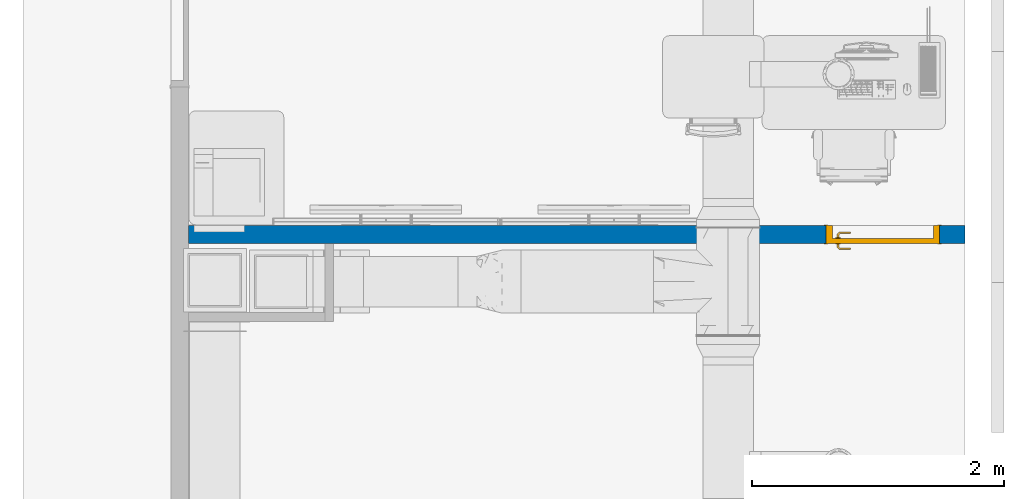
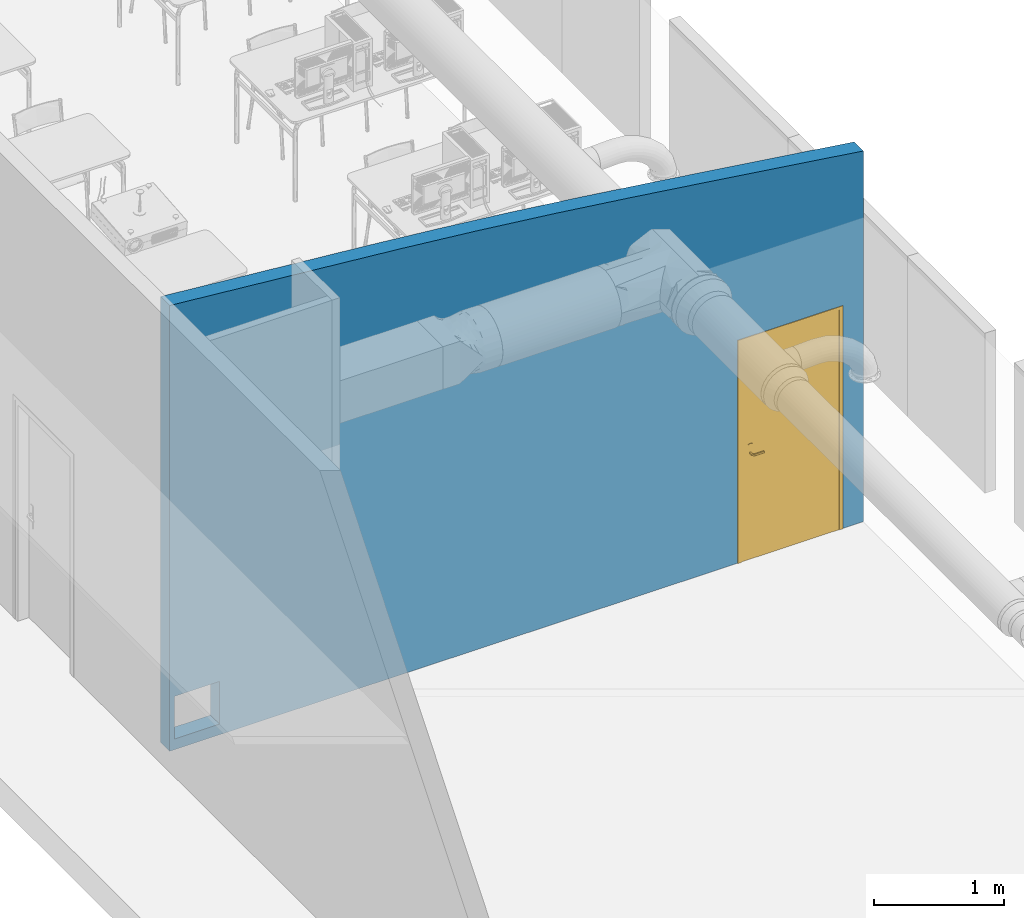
# One storey, part 3 of 31: 1 door, 1 wall, 1 opening.
"""IFC2X3 building model written with IfcOpenShell, lengths in millimetres."""

from ifc_helpers import new_model, entity, si_unit, converted_unit, derived_unit, direction, frame, frame_2d, origin, place, context, subcontext, project, spatial, rectangle, extrude, faceted_brep, source, transform, mapped, material, material_list, layer, layer_set, type_object, type_shapes, element, fill, save


model = new_model("IFC2X3")

# Units and contexts
model_context = context("Model", 3, precision=0.01, world=origin(), true_north=direction((6.123031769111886e-17, 1.0)))
body_context = subcontext(model_context, "Body", "Model", "MODEL_VIEW")
ifc_project = project(units=[si_unit("LENGTHUNIT", "METRE", prefix="MILLI"), si_unit("AREAUNIT", "SQUARE_METRE"), si_unit("VOLUMEUNIT", "CUBIC_METRE"), converted_unit("PLANEANGLEUNIT", "DEGREE", entity("IfcRatioMeasure", 0.017453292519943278), si_unit("PLANEANGLEUNIT", "RADIAN"), dimensions=[0, 0, 0, 0, 0, 0, 0]), si_unit("MASSUNIT", "GRAM", prefix="KILO"), derived_unit("MASSDENSITYUNIT", [(si_unit("MASSUNIT", "GRAM", prefix="KILO"), 1), (si_unit("LENGTHUNIT", "METRE"), -3)]), derived_unit("MOMENTOFINERTIAUNIT", [(si_unit("LENGTHUNIT", "METRE"), 4)]), si_unit("TIMEUNIT", "SECOND"), si_unit("FREQUENCYUNIT", "HERTZ"), si_unit("THERMODYNAMICTEMPERATUREUNIT", "DEGREE_CELSIUS"), derived_unit("THERMALTRANSMITTANCEUNIT", [(si_unit("MASSUNIT", "GRAM", prefix="KILO"), 1), (si_unit("THERMODYNAMICTEMPERATUREUNIT", "KELVIN"), -1), (si_unit("TIMEUNIT", "SECOND"), -3)]), derived_unit("VOLUMETRICFLOWRATEUNIT", [(si_unit("LENGTHUNIT", "METRE"), 3), (si_unit("TIMEUNIT", "SECOND"), -1)]), derived_unit("MASSFLOWRATEUNIT", [(si_unit("MASSUNIT", "GRAM", prefix="KILO"), 1), (si_unit("TIMEUNIT", "SECOND"), -1)]), derived_unit("ROTATIONALFREQUENCYUNIT", [(si_unit("TIMEUNIT", "SECOND"), -1)]), si_unit("ELECTRICCURRENTUNIT", "AMPERE"), si_unit("ELECTRICVOLTAGEUNIT", "VOLT"), si_unit("POWERUNIT", "WATT"), si_unit("FORCEUNIT", "NEWTON", prefix="KILO"), si_unit("ILLUMINANCEUNIT", "LUX"), si_unit("LUMINOUSFLUXUNIT", "LUMEN"), si_unit("LUMINOUSINTENSITYUNIT", "CANDELA"), derived_unit("USERDEFINED", [(si_unit("MASSUNIT", "GRAM", prefix="KILO"), -1), (si_unit("LENGTHUNIT", "METRE"), -2), (si_unit("TIMEUNIT", "SECOND"), 3), (si_unit("LUMINOUSFLUXUNIT", "LUMEN"), 1)]), derived_unit("SOUNDPOWERUNIT", [(si_unit("MASSUNIT", "GRAM", prefix="KILO"), 1), (si_unit("LENGTHUNIT", "METRE"), 2), (si_unit("TIMEUNIT", "SECOND"), -3)]), derived_unit("SOUNDPRESSUREUNIT", [(si_unit("MASSUNIT", "GRAM", prefix="KILO"), 1), (si_unit("LENGTHUNIT", "METRE"), -1), (si_unit("TIMEUNIT", "SECOND"), -2)]), derived_unit("LINEARVELOCITYUNIT", [(si_unit("LENGTHUNIT", "METRE"), 1), (si_unit("TIMEUNIT", "SECOND"), -1)]), si_unit("PRESSUREUNIT", "PASCAL"), derived_unit("USERDEFINED", [(si_unit("LENGTHUNIT", "METRE"), -2), (si_unit("MASSUNIT", "GRAM", prefix="KILO"), 1), (si_unit("TIMEUNIT", "SECOND"), -2)]), derived_unit("LINEARFORCEUNIT", [(si_unit("MASSUNIT", "GRAM", prefix="KILO"), 1), (si_unit("LENGTHUNIT", "METRE"), 1), (si_unit("TIMEUNIT", "SECOND"), -2), (si_unit("LENGTHUNIT", "METRE"), -1)]), derived_unit("PLANARFORCEUNIT", [(si_unit("MASSUNIT", "GRAM", prefix="KILO"), 1), (si_unit("LENGTHUNIT", "METRE"), 1), (si_unit("TIMEUNIT", "SECOND"), -2), (si_unit("LENGTHUNIT", "METRE"), -2)])], contexts=[model_context])

# Site, building, storey
site_placement = place(None, origin())
site = spatial("IfcSite", under=ifc_project, at=site_placement, Name="Default", CompositionType="ELEMENT")
building_placement = place(site_placement, origin())
building = spatial("IfcBuilding", under=site, at=building_placement, CompositionType="ELEMENT")
storey_placement = place(building_placement, frame((0.0, 0.0, 3880.0)))
storey = spatial("IfcBuildingStorey", under=building, at=storey_placement, Name="Niveau 1", CompositionType="ELEMENT", Elevation=3880.0)

# Wall, opening, door
ifc_material_1 = material(Name="Peinture")
ifc_layer = layer(ifc_material_1, 140.0)
ifc_layer_set = layer_set([ifc_layer], Name="Mur de base:Générique - 140 mm")
wall_type = type_object("IfcWallType", Name="Mur de base:Générique - 140 mm", PredefinedType="STANDARD", material=ifc_layer_set)
wall_placement = place(storey_placement, frame((-6470.0, -14200.0, 0.0)))
wall = element("IfcWall", 1, at=wall_placement, inside=storey, type_object=wall_type, Name="Mur de base:Générique - 140 mm", ObjectType="Mur de base:Générique - 140 mm", context=body_context, shape_type="Brep", body=[
    faceted_brep([(6150.0, -70.0, 0.0), (5950.0, -70.0, 0.0), (5950.0, 70.0, 0.0), (6150.0, 70.0, 0.0), (1080.0, -70.0, 0.0), (0.0, -70.0, 0.0), (0.0, 70.0, 0.0), (5050.0, 70.0, 0.0), (5050.0, -70.0, 0.0), (1150.0, -70.0, 0.0), (42.789588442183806, -70.0, 100.0), (42.789588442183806, -70.0, 500.0), (442.7895884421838, -70.0, 100.0), (0.0, -70.0, 4178.169691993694), (442.7895884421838, -70.0, 500.0), (2055.475284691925, -70.0, 3992.731269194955), (2141.0210894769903, -70.0, 3983.991725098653), (2226.566894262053, -70.0, 3975.2521810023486), (2312.1126990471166, -70.0, 3966.5126369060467), (2397.6585038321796, -70.0, 3957.7730928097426), (2483.2043086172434, -70.0, 3949.0335487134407), (2568.750113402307, -70.0, 3940.2940046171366), (2654.2959181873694, -70.0, 3931.5544605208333), (2739.841722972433, -70.0, 3922.81491642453), (5050.0, -70.0, 2075.0), (2825.2541357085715, -70.0, 3912.9608908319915), (2910.6665484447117, -70.0, 3903.1068652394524), (2996.078961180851, -70.0, 3893.2528396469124), (3081.4913739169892, -70.0, 3883.398814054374), (3166.903786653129, -70.0, 3873.5447884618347), (3252.316199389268, -70.0, 3863.6907628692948), (3337.7286121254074, -70.0, 3853.836737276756), (3423.1410248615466, -70.0, 3843.9827116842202), (3593.723436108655, -70.0, 3822.0273257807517), (3764.305847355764, -70.0, 3800.0719398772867), (3934.888258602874, -70.0, 3778.1165539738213), (4105.470669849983, -70.0, 3756.1611680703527), (4275.906171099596, -70.0, 3733.00040072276), (4446.341672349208, -70.0, 3709.8396333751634), (4616.77717359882, -70.0, 3686.678866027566), (4787.212674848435, -70.0, 3663.5180986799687), (5127.94077067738, -70.0, 3616.289063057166), (5468.668866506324, -70.0, 3569.0600274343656), (5950.0, -70.0, 2075.0), (5809.334433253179, -70.0, 3521.414000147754), (6150.0, -70.0, 3473.767972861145), (1969.840553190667, -70.0, 4000.5179869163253), (1884.2058216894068, -70.0, 4008.304704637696), (1798.5710901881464, -70.0, 4016.0914223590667), (1712.936358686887, -70.0, 4023.878140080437), (1627.301627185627, -70.0, 4031.664857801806), (1541.666895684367, -70.0, 4039.451575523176), (1456.0321641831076, -70.0, 4047.238293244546), (1370.3974326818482, -70.0, 4055.025010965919), (1284.7465100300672, -70.0, 4062.6916693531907), (1199.0955873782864, -70.0, 4070.358327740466), (1113.4446647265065, -70.0, 4078.02498612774), (1027.7937420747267, -70.0, 4085.691644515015), (942.1428194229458, -70.0, 4093.3583029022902), (856.4918967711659, -70.0, 4101.024961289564), (770.8409741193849, -70.0, 4108.691619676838), (685.190051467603, -70.0, 4116.358278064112), (599.5412950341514, -70.0, 4124.084704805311), (513.8925386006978, -70.0, 4131.811131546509), (342.5950257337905, -70.0, 4147.263985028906), (171.29751286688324, -70.0, 4162.716838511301), (5950.0, 70.0, 2075.0), (6150.0, 70.0, 3473.767972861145), (5833.222258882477, 70.0, 3518.088082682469), (5536.759750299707, 70.0, 3559.5659052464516), (5050.0, 70.0, 2075.0), (5230.092723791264, 70.0, 3602.152106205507), (4923.4256972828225, 70.0, 3644.7383071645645), (4616.677546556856, 70.0, 3686.712179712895), (4309.929395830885, 70.0, 3728.686052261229), (4156.482560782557, 70.0, 3748.9622434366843), (4003.035725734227, 70.0, 3769.238434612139), (3849.5888906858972, 70.0, 3789.514625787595), (3696.142055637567, 70.0, 3809.790816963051), (3542.527732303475, 70.0, 3828.468742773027), (3388.913408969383, 70.0, 3847.146668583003), (3235.29908563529, 70.0, 3865.8245943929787), (3081.684762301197, 70.0, 3884.5025202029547), (442.7895884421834, 70.0, 500.0), (442.7895884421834, 70.0, 100.0), (42.789588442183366, 70.0, 100.0), (42.789588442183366, 70.0, 500.0), (0.0, 70.0, 4178.169691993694), (121.83043230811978, 70.0, 4167.206195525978), (308.37303393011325, 70.0, 4150.419263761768), (462.5595508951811, 70.0, 4136.544049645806), (616.7460678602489, 70.0, 4122.668835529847), (693.824652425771, 70.0, 4115.726689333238), (770.903236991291, 70.0, 4108.7845431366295), (925.0604061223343, 70.0, 4094.900250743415), (1079.2175752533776, 70.0, 4081.0159583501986), (1233.3747443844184, 70.0, 4067.131665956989), (1310.4541360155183, 70.0, 4060.240882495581), (1387.533527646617, 70.0, 4053.3500990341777), (1464.6129192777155, 70.0, 4046.4593155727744), (1541.6923109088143, 70.0, 4039.5685321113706), (1618.771702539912, 70.0, 4032.6777486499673), (1695.851094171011, 70.0, 4025.786965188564), (1772.9304858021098, 70.0, 4018.8961817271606), (1850.009877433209, 70.0, 4012.005398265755), (1927.0351740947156, 70.0, 4004.486366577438), (2004.0604707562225, 70.0, 3996.9673348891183), (2081.0857674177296, 70.0, 3989.4483032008), (2158.111064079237, 70.0, 3981.9292715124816), (2235.1363607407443, 70.0, 3974.410239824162), (2312.161657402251, 70.0, 3966.8912081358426), (2389.186954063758, 70.0, 3959.3721764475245), (2466.212250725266, 70.0, 3951.853144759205), (2543.146314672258, 70.0, 3943.4343166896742), (2620.0803786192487, 70.0, 3935.0154886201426), (2697.0144425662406, 70.0, 3926.596660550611), (2773.9485065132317, 70.0, 3918.1778324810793), (2850.882570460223, 70.0, 3909.7590044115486), (2927.816634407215, 70.0, 3901.340176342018), (3004.750698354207, 70.0, 3892.921348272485), (0.0, -4.6472773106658, 4178.169691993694), (6150.0, 4.647275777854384, 3473.767972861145), (271.05714645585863, -4.430753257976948, 4154.549473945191), (401.63585759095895, 5.944662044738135, 4142.623087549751), (3760.6051661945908, 4.157678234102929, 3801.5050391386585), (3631.9280128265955, -0.5455644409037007, 3817.970262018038), (3525.4807594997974, -3.1224662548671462, 3831.3495255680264), (4177.97609273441, -2.6062689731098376, 3746.457963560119), (2609.7699681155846, -4.484983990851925, 3936.79997815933), (2732.318254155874, 3.463223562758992, 3923.6327824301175), (2041.7294192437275, 3.3370461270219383, 3994.0439834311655), (2924.861015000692, -7.199561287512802, 3902.357077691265), (3003.2123361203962, 2.7145467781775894, 3893.4952638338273), (1012.6808901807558, 9.761330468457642, 4086.7255983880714), (1502.5609184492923, 0.4111753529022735, 4043.3255941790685), (1585.928220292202, 8.000155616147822, 4035.9073572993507), (513.3890448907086, 1.929472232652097, 4132.263955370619), (1760.1484674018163, 4.648693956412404, 4020.227280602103), (1667.7746518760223, -3.7028582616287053, 4028.5769502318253), (804.9726433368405, -5.998340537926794, 4105.420010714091), (912.9869643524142, -2.894617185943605, 4095.659407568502), (1167.4012520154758, 5.801039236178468, 4072.9698786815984), (1941.0910505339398, 2.4843445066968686, 4003.5497908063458), (2512.101573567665, -2.1523030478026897, 3947.0848286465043), (2421.274767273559, 3.375352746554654, 3956.482986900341), (4017.105873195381, -5.03877346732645, 3767.9176146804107), (2267.297797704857, 0.28746864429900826, 3972.051531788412), (2344.513251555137, -10.538351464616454, 3964.30134086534), (3203.83698677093, -9.19034826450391, 3870.273646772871), (1359.3286975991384, 2.3255492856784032, 4056.0030401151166), (1268.67125266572, -5.206051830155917, 4064.0119161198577), (4876.711899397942, -2.354704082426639, 3651.1858044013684), (5113.377948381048, 3.0231778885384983, 3618.454258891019), (2847.749744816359, 6.152481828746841, 3910.9637046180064), (4681.102839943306, -10.856896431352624, 3678.1006425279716), (4502.596909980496, 0.07958723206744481, 3702.521613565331), (3884.02270581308, 5.404116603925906, 3785.4560501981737), (3117.6044555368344, -1.2076571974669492, 3880.3473458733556), (148.93480211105, -1.6816801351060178, 4165.4121677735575), (658.182433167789, 1.6204196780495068, 4118.842860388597), (5370.564916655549, 4.420099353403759, 3582.7245937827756), (5675.451378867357, 1.4627252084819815, 3540.20476908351), (3289.5771091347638, 5.2600837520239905, 3860.1169537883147), (3383.7322107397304, -2.8192298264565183, 3848.7847368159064), (2177.164430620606, -4.809803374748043, 3980.9543603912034), (4333.41135077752, -9.721611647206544, 3725.509817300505), (1856.3036745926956, -2.3380792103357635, 4011.4252710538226)], [[[0, 1, 2, 3]], [[4, 5, 6, 7, 8, 9]], [[5, 10, 11]], [[10, 5, 12]], [[4, 12, 5]], [[11, 13, 5]], [[14, 12, 4]], [[14, 4, 9]], [[14, 9, 15]], [[9, 16, 15]], [[9, 17, 16]], [[9, 18, 17]], [[9, 19, 18]], [[9, 20, 19]], [[9, 21, 20]], [[9, 22, 21]], [[9, 23, 22]], [[24, 23, 9]], [[24, 9, 8]], [[24, 25, 23]], [[24, 26, 25]], [[24, 27, 26]], [[24, 28, 27]], [[24, 29, 28]], [[24, 30, 29]], [[24, 31, 30]], [[24, 32, 31]], [[24, 33, 32]], [[24, 34, 33]], [[24, 35, 34]], [[24, 36, 35]], [[24, 37, 36]], [[24, 38, 37]], [[24, 39, 38]], [[24, 40, 39]], [[24, 41, 40]], [[24, 42, 41]], [[24, 43, 42]], [[43, 44, 42]], [[43, 45, 44]], [[43, 0, 45]], [[43, 1, 0]], [[14, 15, 46]], [[14, 46, 47]], [[14, 47, 48]], [[14, 48, 49]], [[14, 49, 50]], [[14, 50, 51]], [[14, 51, 52]], [[14, 52, 53]], [[14, 53, 54]], [[14, 54, 55]], [[14, 55, 56]], [[14, 56, 57]], [[14, 57, 58]], [[14, 58, 59]], [[14, 59, 60]], [[14, 60, 61]], [[11, 61, 62]], [[61, 11, 14]], [[11, 62, 63]], [[11, 63, 64]], [[11, 64, 65]], [[11, 65, 13]], [[3, 2, 66]], [[3, 66, 67]], [[66, 68, 67]], [[66, 69, 68]], [[66, 70, 69]], [[70, 71, 69]], [[70, 72, 71]], [[70, 73, 72]], [[70, 74, 73]], [[70, 75, 74]], [[70, 76, 75]], [[70, 77, 76]], [[70, 78, 77]], [[70, 79, 78]], [[70, 80, 79]], [[70, 81, 80]], [[70, 82, 81]], [[83, 82, 70]], [[70, 7, 83]], [[83, 7, 84]], [[84, 7, 6]], [[6, 85, 84]], [[86, 85, 6]], [[86, 6, 87]], [[86, 87, 88]], [[86, 88, 89]], [[86, 89, 90]], [[86, 90, 91]], [[83, 86, 91]], [[83, 91, 92]], [[83, 92, 93]], [[83, 93, 94]], [[83, 94, 95]], [[83, 95, 96]], [[83, 96, 97]], [[83, 97, 98]], [[83, 98, 99]], [[83, 99, 100]], [[83, 100, 101]], [[83, 101, 102]], [[83, 102, 103]], [[83, 103, 104]], [[83, 104, 105]], [[83, 105, 106]], [[83, 106, 107]], [[83, 107, 108]], [[83, 108, 109]], [[83, 109, 110]], [[83, 110, 111]], [[83, 111, 112]], [[83, 112, 113]], [[83, 113, 114]], [[83, 114, 115]], [[83, 115, 116]], [[83, 116, 117]], [[83, 117, 118]], [[83, 118, 119]], [[83, 119, 82]], [[6, 5, 13, 120, 87]], [[66, 2, 1, 43]], [[66, 43, 24, 70]], [[70, 24, 8, 7]], [[85, 86, 11, 10]], [[84, 85, 10, 12]], [[83, 84, 12, 14]], [[86, 83, 14, 11]], [[0, 3, 67, 121, 45]], [[122, 64, 123]], [[34, 124, 125]], [[126, 33, 125]], [[127, 74, 75]], [[128, 129, 115]], [[130, 107, 106]], [[131, 27, 132]], [[57, 56, 133, 58]], [[100, 134, 135]], [[123, 136, 90]], [[137, 138, 49]], [[139, 59, 140]], [[134, 52, 51]], [[141, 56, 55]], [[142, 46, 130]], [[137, 102, 138]], [[21, 128, 143]], [[144, 112, 111]], [[127, 75, 145]], [[110, 146, 147]], [[29, 30, 148]], [[149, 97, 150]], [[44, 45, 121]], [[151, 41, 152]], [[129, 25, 153]], [[39, 154, 155]], [[35, 145, 156]], [[157, 81, 82]], [[65, 158, 13]], [[136, 62, 159]], [[160, 69, 71]], [[155, 154, 73]], [[82, 132, 157]], [[88, 87, 120]], [[161, 68, 69]], [[65, 122, 158]], [[153, 118, 117, 116]], [[29, 157, 28]], [[30, 31, 162]], [[158, 122, 88]], [[162, 163, 80]], [[128, 21, 22]], [[142, 106, 105]], [[164, 17, 146]], [[79, 126, 125]], [[164, 109, 108, 107]], [[81, 157, 148]], [[37, 38, 165]], [[93, 139, 140]], [[73, 74, 155]], [[58, 133, 140]], [[91, 159, 92]], [[148, 30, 162]], [[132, 82, 119, 118]], [[118, 153, 131]], [[28, 157, 132]], [[37, 127, 36]], [[46, 15, 130]], [[76, 145, 75]], [[165, 38, 155]], [[77, 156, 76]], [[78, 124, 77]], [[36, 127, 145]], [[35, 36, 145]], [[77, 124, 156]], [[125, 124, 78]], [[35, 124, 34]], [[79, 125, 78]], [[34, 125, 33]], [[35, 156, 124]], [[76, 156, 145]], [[163, 79, 80]], [[32, 33, 126]], [[140, 133, 94]], [[141, 55, 150]], [[94, 133, 95]], [[96, 141, 150]], [[56, 141, 133]], [[96, 95, 141]], [[133, 141, 95]], [[51, 50, 135]], [[150, 55, 54]], [[61, 139, 159]], [[93, 140, 94]], [[139, 93, 92]], [[139, 61, 60, 59]], [[123, 90, 89]], [[92, 159, 139]], [[166, 48, 47]], [[63, 136, 123]], [[140, 59, 58]], [[91, 90, 136]], [[62, 61, 159]], [[122, 123, 89]], [[63, 123, 64]], [[88, 122, 89]], [[64, 122, 65]], [[62, 136, 63]], [[91, 136, 159]], [[88, 120, 158]], [[13, 158, 120]], [[150, 54, 149]], [[97, 96, 150]], [[149, 54, 53]], [[137, 49, 48]], [[142, 166, 47]], [[166, 103, 137]], [[101, 100, 135]], [[135, 50, 138]], [[138, 102, 101]], [[50, 49, 138]], [[41, 160, 152]], [[121, 67, 68]], [[161, 121, 68]], [[42, 44, 161]], [[121, 161, 44]], [[161, 160, 42]], [[69, 160, 161]], [[160, 41, 42]], [[160, 71, 152]], [[71, 72, 152]], [[151, 152, 72]], [[154, 72, 73]], [[41, 151, 40]], [[39, 155, 38]], [[151, 154, 40]], [[165, 74, 127]], [[74, 165, 155]], [[37, 165, 127]], [[40, 154, 39]], [[154, 151, 72]], [[116, 129, 153]], [[131, 153, 26]], [[126, 79, 163]], [[163, 31, 32]], [[80, 81, 162]], [[81, 148, 162]], [[29, 148, 157]], [[31, 163, 162]], [[126, 163, 32]], [[129, 116, 115]], [[115, 114, 113, 128]], [[129, 22, 23]], [[27, 131, 26]], [[129, 128, 22]], [[128, 113, 143]], [[144, 143, 112]], [[144, 20, 143]], [[147, 111, 110]], [[18, 147, 146]], [[18, 146, 17]], [[144, 147, 19]], [[109, 164, 146]], [[130, 16, 164]], [[130, 106, 142]], [[107, 130, 164]], [[20, 144, 19]], [[166, 105, 104]], [[105, 166, 142]], [[16, 130, 15]], [[16, 17, 164]], [[20, 21, 143]], [[19, 147, 18]], [[147, 144, 111]], [[146, 110, 109]], [[142, 47, 46]], [[25, 129, 23]], [[48, 166, 137]], [[52, 134, 149]], [[27, 28, 132]], [[134, 100, 99, 98]], [[134, 98, 149]], [[51, 135, 134]], [[101, 135, 138]], [[149, 53, 52]], [[97, 149, 98]], [[103, 166, 104]], [[103, 102, 137]], [[25, 26, 153]], [[118, 131, 132]], [[113, 112, 143]]]),
])
opening_placement = place(wall_placement, frame((5950.0, 70.0, 0.0)))
opening = element("IfcOpeningElement", 2, at=opening_placement, cuts=wall, Name="Int. Simple:PP (0.83m x 2.04m):1", ObjectType="Opening", context=body_context, shape_type="SweptSolid", body=[
    extrude(rectangle(XDim=2075.0, YDim=900.0000000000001, at=frame_2d((1037.5, 450.00000000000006), x_axis=(1.0, 0.0))), frame((0.0, 0.0, 0.0), z_axis=(0.0, -1.0, 0.0), x_axis=(0.0, 0.0, 1.0)), (0.0, 0.0, 1.0), 139.99999999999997),
])
ifc_material_2 = material(Name="Finition Peinture - Blanc satiné")
ifc_material_3 = material(Name="Bois - Panneau de porte")
ifc_material_4 = material(Name="Bois - Cadre de porte")
ifc_material_list_1 = material_list([ifc_material_2, ifc_material_3, ifc_material_4])
ifc_material_list_2 = material_list([ifc_material_2, ifc_material_2, ifc_material_2, ifc_material_2, ifc_material_3, ifc_material_4, ifc_material_4, ifc_material_4])
door_style = type_object("IfcDoorStyle", Name="Int. Simple:PP (0.83m x 2.04m)", ConstructionType="NOTDEFINED", OperationType="SINGLE_SWING_LEFT", ParameterTakesPrecedence=False, Sizeable=False, material=ifc_material_list_2)
shared_shape = source(origin(), body_context, "Body", "Brep", [
    faceted_brep([(105.3527618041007, -5.0, 866.003983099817), (115.0, -5.0, 870.0), (115.0, -5.0, 1080.0), (105.35276180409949, -5.0, 1083.9960169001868), (95.0, -5.0, 1085.3589838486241), (84.64723819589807, -5.0, 1083.996016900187), (75.0, -5.0, 1080.0), (75.0, -5.0, 870.0), (84.64723819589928, -5.0, 866.003983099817), (95.0, -5.0, 864.6410161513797), (105.35276180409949, 0.0, 1083.9960169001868), (115.0, 0.0, 1080.0), (115.0, 0.0, 870.0), (105.3527618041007, 0.0, 866.003983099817), (95.0, 0.0, 864.6410161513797), (84.64723819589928, 0.0, 866.003983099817), (75.0, 0.0, 870.0), (75.0, 0.0, 1080.0), (84.64723819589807, 0.0, 1083.996016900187), (95.0, 0.0, 1085.3589838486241)], [[[0, 1, 2, 3, 4, 5, 6, 7, 8, 9]], [[10, 11, 12, 13, 14, 15, 16, 17, 18, 19]], [[16, 15, 8, 7]], [[8, 15, 14, 9]], [[14, 13, 0, 9]], [[13, 12, 1, 0]], [[2, 1, 12, 11]], [[11, 10, 3, 2]], [[3, 10, 19, 4]], [[19, 18, 5, 4]], [[18, 17, 6, 5]], [[7, 6, 17, 16]]]),
    faceted_brep([(105.35276180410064, 40.0, 866.003983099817), (115.0, 40.0, 870.0), (115.0, 40.0, 1080.0), (105.35276180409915, 40.0, 1083.996016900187), (95.0, 40.0, 1085.3589838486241), (84.64723819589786, 40.0, 1083.9960169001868), (75.0, 40.0, 1080.0), (75.0, 40.0, 870.0), (84.64723819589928, 40.0, 866.0039830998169), (95.0, 40.0, 864.6410161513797), (105.35276180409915, 45.0, 1083.996016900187), (115.0, 45.0, 1080.0), (115.0, 45.0, 870.0), (105.35276180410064, 45.0, 866.003983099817), (95.0, 45.0, 864.6410161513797), (84.64723819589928, 45.0, 866.0039830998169), (75.0, 45.0, 870.0), (75.0, 45.0, 1080.0), (84.64723819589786, 45.0, 1083.9960169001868), (95.0, 45.0, 1085.3589838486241)], [[[0, 1, 2, 3, 4, 5, 6, 7, 8, 9]], [[10, 11, 12, 13, 14, 15, 16, 17, 18, 19]], [[11, 10, 3, 2]], [[3, 10, 19, 4]], [[19, 18, 5, 4]], [[18, 17, 6, 5]], [[7, 6, 17, 16]], [[16, 15, 8, 7]], [[8, 15, 14, 9]], [[14, 13, 0, 9]], [[13, 12, 1, 0]], [[2, 1, 12, 11]]]),
    faceted_brep([(92.97470134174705, -5.0, 1007.7804408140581), (97.02529865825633, -5.0, 1007.7804408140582), (101.0, -5.0, 1007.0), (101.0, -5.0, 993.0), (97.02529865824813, -5.0, 992.2195591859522), (92.97470134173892, -5.0, 992.21955918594), (89.0, -5.0, 993.0), (89.0, -5.0, 1007.0), (89.0, -32.650950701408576, 1007.0), (92.97470134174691, -31.00457549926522, 1007.7804408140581), (109.0235851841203, -47.053459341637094, 1007.7804408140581), (110.7013975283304, -43.00286202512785, 1007.7804408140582), (97.02529865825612, -29.326763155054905, 1007.7804408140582), (101.0, -27.68038795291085, 1007.0), (101.0, -27.680387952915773, 993.0), (97.02529865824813, -29.326763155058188, 992.2195591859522), (110.70139752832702, -43.00286202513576, 992.2195591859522), (109.02358518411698, -47.053459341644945, 992.21955918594), (92.97470134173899, -31.004575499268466, 992.21955918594), (89.0, -32.65095070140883, 993.0), (107.37720998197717, -51.02816068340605, 1007.0), (112.34777273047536, -39.028160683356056, 1007.0), (112.34777273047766, -39.028160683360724, 993.0), (107.37720998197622, -51.028160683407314, 993.0), (195.01864060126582, -51.02816068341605, 993.0), (195.01864060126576, -47.05345934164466, 992.2195591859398), (195.01864060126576, -43.00286202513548, 992.219559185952), (195.01864060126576, -39.02816068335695, 993.0), (195.01864060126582, -39.028160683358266, 1007.0), (195.01864060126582, -43.002862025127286, 1007.780440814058), (195.01864060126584, -47.05345934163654, 1007.7804408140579), (195.01864060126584, -51.02816068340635, 1007.0), (147.30769722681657, -51.02816068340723, 1007.0), (152.86001908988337, -45.028160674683, 1007.878686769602), (153.68320666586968, -39.02816068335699, 1007.0), (153.68320666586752, -39.028160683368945, 993.0), (152.86001889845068, -45.02816075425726, 992.1213132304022), (147.30770020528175, -51.028160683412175, 993.0)], [[[0, 1, 2, 3, 4, 5, 6, 7]], [[8, 9, 0, 7]], [[9, 10, 11, 12, 1, 0]], [[12, 13, 2, 1]], [[3, 2, 13, 14]], [[14, 15, 4, 3]], [[15, 16, 17, 18, 5, 4]], [[18, 19, 6, 5]], [[7, 6, 19, 8]], [[20, 10, 9, 8]], [[11, 21, 13, 12]], [[14, 13, 21, 22]], [[22, 16, 15, 14]], [[17, 23, 19, 18]], [[8, 19, 23, 20]], [[24, 25, 26, 27, 28, 29, 30, 31]], [[32, 30, 33]], [[31, 30, 32]], [[10, 20, 32]], [[33, 34, 11]], [[21, 11, 34]], [[34, 29, 28]], [[30, 29, 33]], [[29, 34, 33]], [[10, 32, 33]], [[10, 33, 11]], [[22, 21, 34, 28, 27, 35]], [[35, 26, 36]], [[37, 36, 25]], [[22, 35, 16]], [[35, 27, 26]], [[24, 37, 25]], [[23, 17, 37]], [[37, 17, 36]], [[17, 16, 36]], [[16, 35, 36]], [[25, 36, 26]], [[20, 23, 37, 24, 31, 32]]]),
    faceted_brep([(92.97470134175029, 45.0, 1007.7804408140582), (89.0, 45.0, 1007.0), (89.0, 45.0, 993.0), (92.97470134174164, 45.0, 992.2195591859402), (97.02529865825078, 45.0, 992.2195591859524), (101.0, 45.0, 993.0), (101.0, 45.0, 1007.0), (97.02529865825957, 45.0, 1007.7804408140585), (101.0, 67.48520450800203, 993.0), (101.0, 67.4852045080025, 1007.0), (97.02529865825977, 69.1315797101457, 1007.7804408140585), (110.83890617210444, 82.94518722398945, 1007.7804408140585), (109.16109382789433, 86.9957845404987, 1007.7804408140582), (92.97470134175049, 70.80939205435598, 1007.7804408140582), (89.0, 72.4557672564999, 1007.0), (89.0, 72.45576725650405, 993.0), (92.97470134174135, 70.80939205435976, 992.2195591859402), (109.16109382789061, 86.9957845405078, 992.2195591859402), (110.83890617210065, 82.94518722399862, 992.2195591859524), (97.02529865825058, 69.13157971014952, 992.2195591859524), (112.48528137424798, 78.97048588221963, 993.0), (112.48528137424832, 78.97048588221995, 1007.0), (107.51471862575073, 90.97048588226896, 1007.0), (107.51471862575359, 90.97048588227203, 993.0), (195.0457836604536, 78.97048588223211, 993.0), (195.04578366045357, 82.94518722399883, 992.2195591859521), (195.04578366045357, 86.99578454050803, 992.2195591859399), (195.04578366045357, 90.97048588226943, 993.0), (195.0457836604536, 90.97048588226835, 1007.0), (195.0457836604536, 86.99578454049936, 1007.780440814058), (195.04578366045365, 82.94518722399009, 1007.7804408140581), (195.04578366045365, 78.9704858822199, 1007.0), (153.76552060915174, 78.97048588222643, 993.0), (153.7655325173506, 78.97048588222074, 1007.0), (152.9423448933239, 84.97048589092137, 1007.8786867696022), (147.44520578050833, 90.97048588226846, 1007.0), (147.44520433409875, 90.97048588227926, 993.0), (152.9423451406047, 84.97048581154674, 992.1213132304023)], [[[0, 1, 2, 3, 4, 5, 6, 7]], [[6, 5, 8, 9]], [[9, 10, 7, 6]], [[10, 11, 12, 13, 0, 7]], [[13, 14, 1, 0]], [[2, 1, 14, 15]], [[15, 16, 3, 2]], [[16, 17, 18, 19, 4, 3]], [[19, 8, 5, 4]], [[9, 8, 20, 21]], [[21, 11, 10, 9]], [[12, 22, 14, 13]], [[15, 14, 22, 23]], [[23, 17, 16, 15]], [[18, 20, 8, 19]], [[24, 25, 26, 27, 28, 29, 30, 31]], [[21, 20, 32, 24, 31, 33]], [[33, 30, 34]], [[35, 34, 29]], [[21, 33, 11]], [[33, 31, 30]], [[28, 35, 29]], [[22, 12, 35]], [[35, 12, 34]], [[12, 11, 34]], [[11, 33, 34]], [[29, 34, 30]], [[22, 35, 28, 27, 36, 23]], [[36, 26, 37]], [[27, 26, 36]], [[17, 23, 36]], [[37, 32, 18]], [[20, 18, 32]], [[32, 25, 24]], [[26, 25, 37]], [[25, 32, 37]], [[17, 36, 37]], [[17, 37, 18]]]),
    faceted_brep([(35.0, 40.0, 2040.0), (865.0, 40.0, 2040.0), (865.0, 40.0, 0.0), (35.0, 40.0, 0.0), (35.0, 0.0, 2040.0), (35.0, 0.0, 0.0), (865.0, 0.0, 0.0), (865.0, 0.0, 2040.0)], [[[0, 1, 2, 3]], [[4, 5, 6, 7]], [[1, 0, 4, 7]], [[2, 1, 7, 6]], [[3, 2, 6, 5]], [[0, 3, 5, 4]]]),
    faceted_brep([(0.0, 0.0, 0.0), (0.0, 140.0, 0.0), (50.0, 140.0, 0.0), (50.0, 40.0, 0.0), (35.0, 40.0, 0.0), (35.0, 0.0, 0.0), (0.0, 0.0, 2075.0), (0.0, 140.0, 2075.0), (900.0, 140.0, 2075.0), (900.0, 140.0, 0.0), (850.0, 140.0, 0.0), (850.0, 140.0, 2025.0), (50.0, 140.0, 2025.0), (50.0, 40.0, 2025.0), (850.0, 40.0, 2025.0), (850.0, 40.0, 0.0), (865.0, 40.0, 0.0), (865.0, 40.0, 2040.0), (35.0, 40.0, 2040.0), (35.0, 0.0, 2040.0), (865.0, 0.0, 2040.0), (865.0, 0.0, 0.0), (900.0, 0.0, 0.0), (900.0, 0.0, 2075.0)], [[[0, 1, 2, 3, 4, 5]], [[1, 0, 6, 7]], [[2, 1, 7, 8, 9, 10, 11, 12]], [[3, 2, 12, 13]], [[4, 3, 13, 14, 15, 16, 17, 18]], [[5, 4, 18, 19]], [[0, 5, 19, 20, 21, 22, 23, 6]], [[8, 23, 22, 9]], [[22, 21, 16, 15, 10, 9]], [[14, 11, 10, 15]], [[20, 17, 16, 21]], [[7, 6, 23, 8]], [[13, 12, 11, 14]], [[19, 18, 17, 20]]]),
    faceted_brep([(15.0, 140.0, 0.0), (-15.0, 140.0, 0.0), (-15.0, 145.0, 0.0), (15.0, 145.0, 0.0), (15.0, 140.0, 2060.0), (885.0, 140.0, 2060.0), (885.0, 140.0, 0.0), (915.0, 140.0, 0.0), (915.0, 140.0, 2090.0), (-15.0, 140.0, 2090.0), (-15.0, 145.0, 2090.0), (915.0, 145.0, 2090.0), (915.0, 145.0, 0.0), (885.0, 145.0, 0.0), (885.0, 145.0, 2060.0), (15.0, 145.0, 2060.0)], [[[0, 1, 2, 3]], [[1, 0, 4, 5, 6, 7, 8, 9]], [[2, 1, 9, 10]], [[3, 2, 10, 11, 12, 13, 14, 15]], [[0, 3, 15, 4]], [[6, 13, 12, 7]], [[5, 14, 13, 6]], [[11, 8, 7, 12]], [[10, 9, 8, 11]], [[4, 15, 14, 5]]]),
    faceted_brep([(-15.0, -5.0, 0.0), (15.0, -5.0, 0.0), (15.0, -5.0, 2060.0), (885.0, -5.0, 2060.0), (885.0, -5.0, 0.0), (915.0, -5.0, 0.0), (915.0, -5.0, 2090.0), (-15.0, -5.0, 2090.0), (-15.0, 0.0, 0.0), (-15.0, 0.0, 2090.0), (15.0, 0.0, 0.0), (915.0, 0.0, 2090.0), (915.0, 0.0, 0.0), (885.0, 0.0, 0.0), (885.0, 0.0, 2060.0), (15.0, 0.0, 2060.0)], [[[0, 1, 2, 3, 4, 5, 6, 7]], [[8, 0, 7, 9]], [[10, 8, 9, 11, 12, 13, 14, 15]], [[1, 10, 15, 2]], [[3, 14, 13, 4]], [[11, 6, 5, 12]], [[9, 7, 6, 11]], [[2, 15, 14, 3]], [[4, 13, 12, 5]], [[1, 0, 8, 10]]]),
])
type_shapes(door_style, [shared_shape])
door_placement = place(opening_placement, frame((-900.0, -140.0, 0.0)))
door = element("IfcDoor", 3, at=door_placement, inside=storey, type_object=door_style, material=ifc_material_list_1, Name="Int. Simple:PP (0.83m x 2.04m)", ObjectType="Int. Simple:PP (0.83m x 2.04m)", OverallHeight=2075.0, OverallWidth=900.0000000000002, context=body_context, shape_type="MappedRepresentation", body=[
    mapped(shared_shape, transform((0.0, 0.0, 0.0), scale=1.0)),
])
fill(opening, door)

save(model, "model.ifc")
